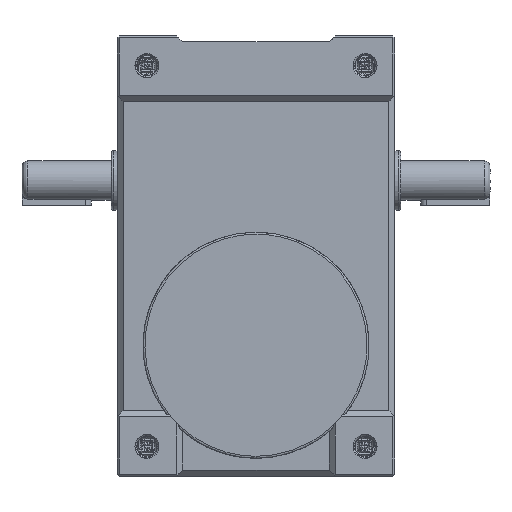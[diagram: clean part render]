
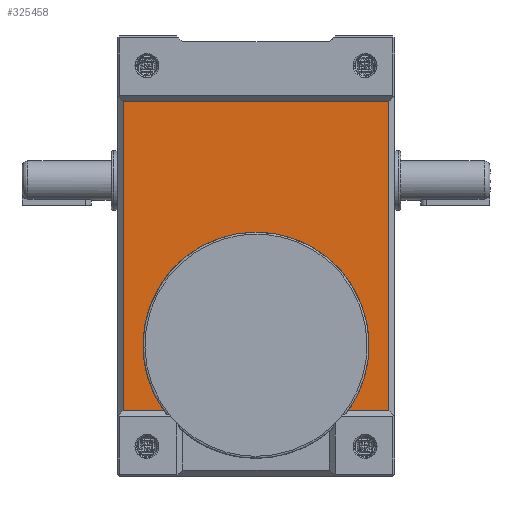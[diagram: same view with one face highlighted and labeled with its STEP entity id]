
A CAD part, front view. The second image highlights one B-rep face of the part: STEP entity #325458.
In plain terms, the highlighted planar face has unit normal (0, -1, 0).
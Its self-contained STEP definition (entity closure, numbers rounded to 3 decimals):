
#309 = CARTESIAN_POINT ( 'NONE',  ( 0., -77., -45. ) ) ;
#667 = ORIENTED_EDGE ( 'NONE', *, *, #7926, .F. ) ;
#2461 = ORIENTED_EDGE ( 'NONE', *, *, #157949, .F. ) ;
#5168 = VERTEX_POINT ( 'NONE', #75187 ) ;
#7926 = EDGE_CURVE ( 'NONE', #259240, #107748, #56999, .T. ) ;
#14341 = DIRECTION ( 'NONE',  ( 0., 0., 1. ) ) ;
#15810 = DIRECTION ( 'NONE',  ( 0., 1., 0. ) ) ;
#18904 = LINE ( 'NONE', #132295, #181036 ) ;
#28068 = CARTESIAN_POINT ( 'NONE',  ( 0., -77., 12. ) ) ;
#29307 = DIRECTION ( 'NONE',  ( 0., 0., 1. ) ) ;
#36338 = VERTEX_POINT ( 'NONE', #45391 ) ;
#45391 = CARTESIAN_POINT ( 'NONE',  ( 67., -77., -78. ) ) ;
#49971 = VERTEX_POINT ( 'NONE', #287870 ) ;
#51809 = FACE_OUTER_BOUND ( 'NONE', #229350, .T. ) ;
#54735 = CARTESIAN_POINT ( 'NONE',  ( 67., -77., 81. ) ) ;
#56999 = LINE ( 'NONE', #140687, #277467 ) ;
#69936 = VERTEX_POINT ( 'NONE', #187474 ) ;
#75187 = CARTESIAN_POINT ( 'NONE',  ( 46.476, -77., -78. ) ) ;
#86098 = ORIENTED_EDGE ( 'NONE', *, *, #213679, .F. ) ;
#101388 = PLANE ( 'NONE',  #232615 ) ;
#107748 = VERTEX_POINT ( 'NONE', #305682 ) ;
#110350 = ORIENTED_EDGE ( 'NONE', *, *, #122679, .F. ) ;
#114851 = AXIS2_PLACEMENT_3D ( 'NONE', #309, #201609, #29307 ) ;
#122679 = EDGE_CURVE ( 'NONE', #36338, #5168, #18904, .T. ) ;
#132295 = CARTESIAN_POINT ( 'NONE',  ( 0., -77., -78. ) ) ;
#133914 = VECTOR ( 'NONE', #267452, 1000. ) ;
#140687 = CARTESIAN_POINT ( 'NONE',  ( 0., -77., -78. ) ) ;
#149969 = ORIENTED_EDGE ( 'NONE', *, *, #344455, .F. ) ;
#151520 = CARTESIAN_POINT ( 'NONE',  ( 0., -77., -45. ) ) ;
#156552 = LINE ( 'NONE', #54735, #223953 ) ;
#157949 = EDGE_CURVE ( 'NONE', #5168, #276266, #334501, .T. ) ;
#162100 = ORIENTED_EDGE ( 'NONE', *, *, #268722, .T. ) ;
#180418 = DIRECTION ( 'NONE',  ( 0., 0., 1. ) ) ;
#181036 = VECTOR ( 'NONE', #219087, 1000. ) ;
#187474 = CARTESIAN_POINT ( 'NONE',  ( -67., -77., 78. ) ) ;
#188134 = CARTESIAN_POINT ( 'NONE',  ( 0., -77., 0. ) ) ;
#192994 = CARTESIAN_POINT ( 'NONE',  ( 0., -77., 78. ) ) ;
#201609 = DIRECTION ( 'NONE',  ( 0., -1., 0. ) ) ;
#208220 = CARTESIAN_POINT ( 'NONE',  ( -46.476, -77., -78. ) ) ;
#213679 = EDGE_CURVE ( 'NONE', #69936, #49971, #363371, .T. ) ;
#217063 = DIRECTION ( 'NONE',  ( 0., 0., 1. ) ) ;
#219087 = DIRECTION ( 'NONE',  ( -1., 0., 0. ) ) ;
#223953 = VECTOR ( 'NONE', #255920, 1000. ) ;
#227223 = CIRCLE ( 'NONE', #302556, 57. ) ;
#229350 = EDGE_LOOP ( 'NONE', ( #110350, #162100, #86098, #149969, #667, #313825, #2461 ) ) ;
#230103 = LINE ( 'NONE', #358931, #315487 ) ;
#232615 = AXIS2_PLACEMENT_3D ( 'NONE', #188134, #15810, #217063 ) ;
#255920 = DIRECTION ( 'NONE',  ( 0., 0., 1. ) ) ;
#259240 = VERTEX_POINT ( 'NONE', #208220 ) ;
#267452 = DIRECTION ( 'NONE',  ( 1., 0., 0. ) ) ;
#268722 = EDGE_CURVE ( 'NONE', #36338, #49971, #156552, .T. ) ;
#276266 = VERTEX_POINT ( 'NONE', #28068 ) ;
#277467 = VECTOR ( 'NONE', #370780, 1000. ) ;
#282077 = EDGE_CURVE ( 'NONE', #276266, #259240, #227223, .T. ) ;
#287870 = CARTESIAN_POINT ( 'NONE',  ( 67., -77., 78. ) ) ;
#302556 = AXIS2_PLACEMENT_3D ( 'NONE', #151520, #352635, #180418 ) ;
#305682 = CARTESIAN_POINT ( 'NONE',  ( -67., -77., -78. ) ) ;
#313825 = ORIENTED_EDGE ( 'NONE', *, *, #282077, .F. ) ;
#315487 = VECTOR ( 'NONE', #14341, 1000. ) ;
#325458 = ADVANCED_FACE ( 'NONE', ( #51809 ), #101388, .F. ) ;
#334501 = CIRCLE ( 'NONE', #114851, 57. ) ;
#344455 = EDGE_CURVE ( 'NONE', #107748, #69936, #230103, .T. ) ;
#352635 = DIRECTION ( 'NONE',  ( 0., -1., 0. ) ) ;
#358931 = CARTESIAN_POINT ( 'NONE',  ( -67., -77., 0. ) ) ;
#363371 = LINE ( 'NONE', #192994, #133914 ) ;
#370780 = DIRECTION ( 'NONE',  ( -1., 0., 0. ) ) ;
